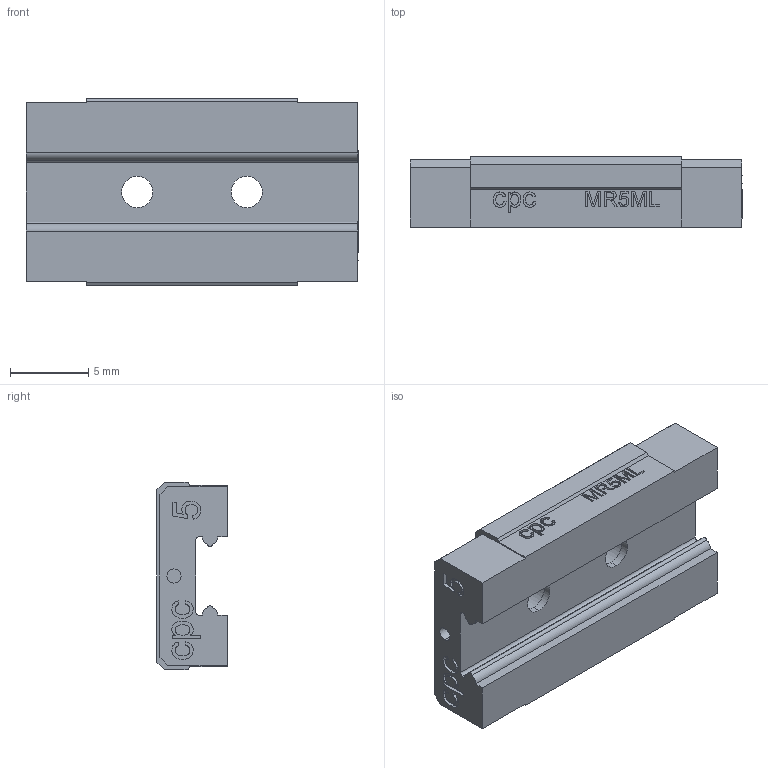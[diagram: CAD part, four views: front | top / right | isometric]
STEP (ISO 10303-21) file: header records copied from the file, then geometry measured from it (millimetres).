
FILE_DESCRIPTION (( 'STEP AP203' ), '1' );
FILE_NAME ('5ML-SS-block.STEP', '2009-08-20T09:20:53', ( 'cpc' ), ( '' ), 'SwSTEP 2.0', 'SolidWorks 2007', '' );
FILE_SCHEMA (( 'CONFIG_CONTROL_DESIGN' ));
Length unit declared in the file: millimetre
Products named in the file (1): 5ML-SS-block
Bounding box: 21.2 x 4.5 x 12 mm (x, y, z)
Volume: 864.6 mm3; surface area: 931.9 mm2
Topology: 1 solids, 1 shells, 395 faces, 1073 edges, 714 vertices
Faces by surface type: plane 214, bspline 156, cylinder 21, cone 4
Entity records: 21210 total; most frequent: CARTESIAN_POINT 12179, ORIENTED_EDGE 2146, DIRECTION 1287, EDGE_CURVE 1073, VECTOR 715, LINE 715, VERTEX_POINT 714, EDGE_LOOP 433
